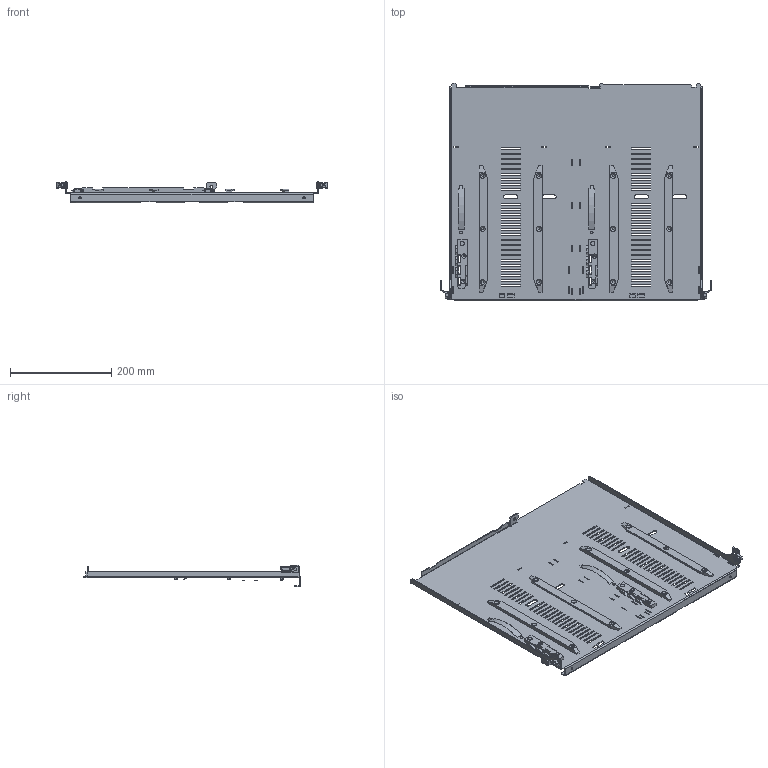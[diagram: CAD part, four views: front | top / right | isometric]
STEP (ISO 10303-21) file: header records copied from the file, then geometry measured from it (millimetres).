
FILE_DESCRIPTION(('CAx-IF Rec.Pracs.---Model Styling and Organization---1.2---2011-12-15','CAx-IF Rec.Pracs.---Geometric and Assembly Validation Properties---4.1---2014-06-16','CAx-IF Rec.Pracs.---PMI Polyline Presentation---2.0---2013-05-24'),'2;1');
FILE_NAME('R5M2WXM2.stp','2021-05-05T12:44:06+03:00',(''),(''),'STEP Interface 4.4 by CT CoreTechnologie','3D_Evolution4.4 by CT CoreTechnologie','');
FILE_SCHEMA(('AUTOMOTIVE_DESIGN { 1 0 10303 214 1 1 1 1 }'));
Length unit declared in the file: millimetre
Products named in the file (10): R5M2WXM2; AC00C485; M6 x 16-DIN 7991 ISR_thread; RB.1167.00.00.0 ÑÁ_-01 (X2); RB.1505.00.02.0; M5x12-DIN 7500M ISR_stright; RB.1167.00.03.0_-00; RB.1167.00.02.0; Ì4-GOST R 50273-92 (DIN 985)_stright DIN EN ISO 10511 - M4 - N; RB.1167.00.01.0_-01
Assembly tree (32 placements, depth 3):
  R5M2WXM2
    AC00C485  x2
    M6 x 16-DIN 7991 ISR_thread  x2
    RB.1167.00.00.0 ÑÁ_-01 (X2)
      RB.1505.00.02.0  x4
      M5x12-DIN 7500M ISR_stright  x12
      RB.1167.00.03.0_-00  x2
      RB.1167.00.02.0  x2
      Ì4-GOST R 50273-92 (DIN 985)_stright DIN EN ISO 10511 - M4 - N  x6
      RB.1167.00.01.0_-01
Bounding box: 537 x 430 x 43 mm (x, y, z)
Surface area: 536719.7 mm2 (no closed solid volume)
Topology: 0 solids, 36 shells, 1051 faces, 2775 edges, 1788 vertices
Faces by surface type: plane 749, cylinder 234, bspline 68
Entity records: 24839 total; most frequent: CARTESIAN_POINT 4797, ORIENTED_EDGE 4056, DIRECTION 3726, EDGE_CURVE 2030, VECTOR 1768, LINE 1768, VERTEX_POINT 1324, AXIS2_PLACEMENT_3D 979
